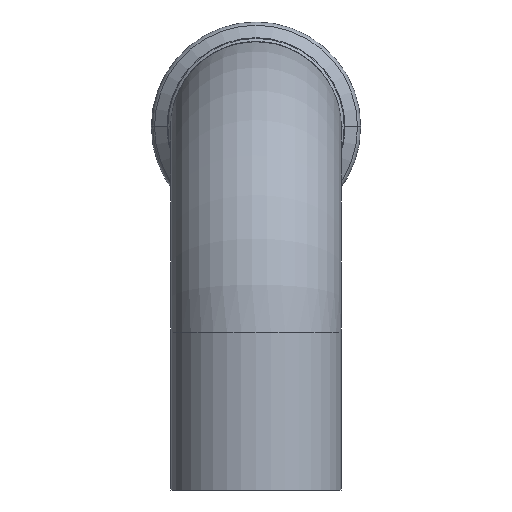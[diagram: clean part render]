
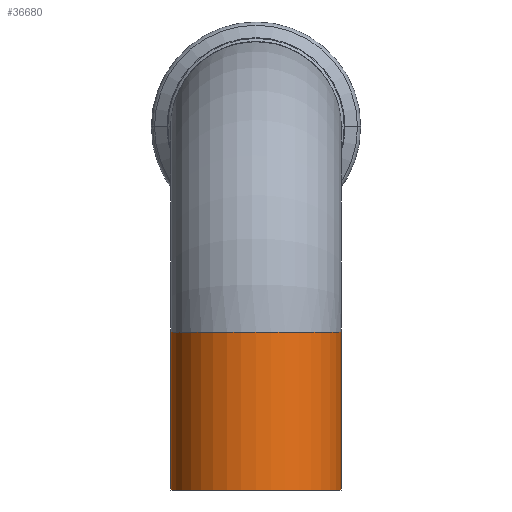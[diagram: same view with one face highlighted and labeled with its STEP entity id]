
A CAD part, left-side view. The second image highlights one B-rep face of the part: STEP entity #36680.
In plain terms, the highlighted cylindrical face has radius 54 mm (diameter 108 mm), a partial arc.
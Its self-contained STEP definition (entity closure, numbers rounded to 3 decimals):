
#550=CARTESIAN_POINT('',(-113.,54.,-130.));
#560=VERTEX_POINT('',#550);
#5120=CARTESIAN_POINT('',(-113.,-54.,-130.));
#5130=VERTEX_POINT('',#5120);
#5160=CARTESIAN_POINT('',(-113.,0.,-130.));
#5170=DIRECTION('',(0.,0.,-1.));
#5180=DIRECTION('',(0.,1.,0.));
#5190=AXIS2_PLACEMENT_3D('',#5160,#5170,#5180);
#5200=CIRCLE('',#5190,54.);
#5210=EDGE_CURVE('',#5130,#560,#5200,.T.);
#31710=CARTESIAN_POINT('',(-113.,0.,-230.));
#31720=DIRECTION('',(0.,0.,1.));
#31730=DIRECTION('',(0.,1.,0.));
#31740=AXIS2_PLACEMENT_3D('',#31710,#31720,#31730);
#31750=CIRCLE('',#31740,54.);
#31760=CARTESIAN_POINT('',(-113.,54.,-230.));
#31770=VERTEX_POINT('',#31760);
#31780=CARTESIAN_POINT('',(-113.,-54.,-230.));
#31790=VERTEX_POINT('',#31780);
#31800=EDGE_CURVE('',#31770,#31790,#31750,.T.);
#32110=CARTESIAN_POINT('',(-113.,0.,-130.));
#32120=DIRECTION('',(0.,0.,1.));
#32130=DIRECTION('',(0.,1.,0.));
#32140=AXIS2_PLACEMENT_3D('',#32110,#32120,#32130);
#32150=CYLINDRICAL_SURFACE('',#32140,54.);
#32160=CARTESIAN_POINT('',(-113.,-54.,-130.));
#32170=DIRECTION('',(0.,0.,1.));
#32180=VECTOR('',#32170,1.);
#32190=LINE('',#32160,#32180);
#32200=EDGE_CURVE('',#31790,#5130,#32190,.T.);
#32240=CARTESIAN_POINT('',(-113.,54.,-130.));
#32250=DIRECTION('',(0.,0.,1.));
#32260=VECTOR('',#32250,1.);
#32270=LINE('',#32240,#32260);
#32280=EDGE_CURVE('',#31770,#560,#32270,.T.);
#36620=ORIENTED_EDGE('',*,*,#32200,.T.);
#36630=ORIENTED_EDGE('',*,*,#31800,.T.);
#36640=ORIENTED_EDGE('',*,*,#32280,.F.);
#36650=ORIENTED_EDGE('',*,*,#5210,.T.);
#36660=EDGE_LOOP('',(#36650,#36640,#36630,#36620));
#36670=FACE_OUTER_BOUND('',#36660,.T.);
#36680=ADVANCED_FACE('',(#36670),#32150,.T.);
